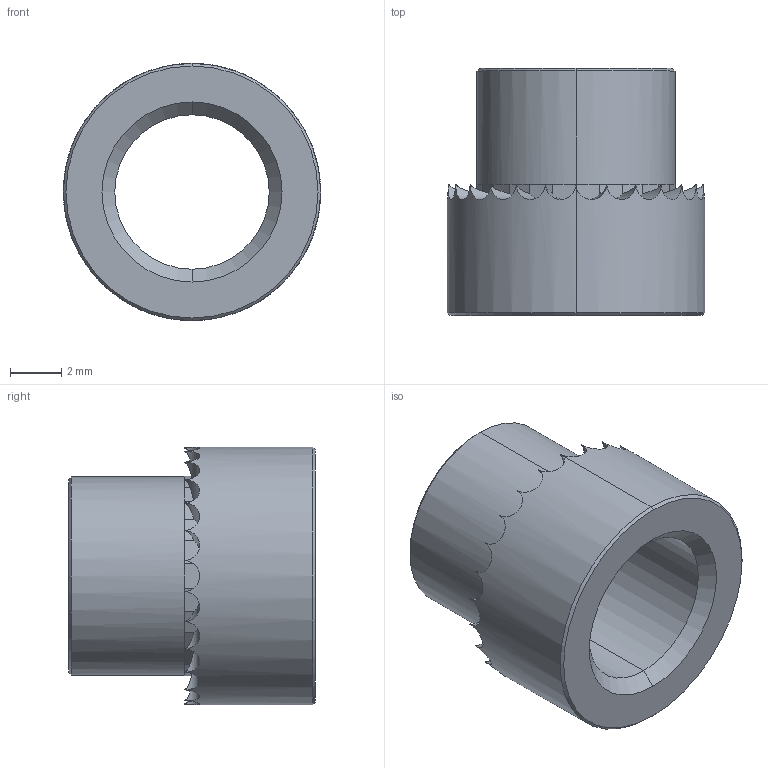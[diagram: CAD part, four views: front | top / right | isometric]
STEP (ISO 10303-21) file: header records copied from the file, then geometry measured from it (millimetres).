
FILE_DESCRIPTION (( 'STEP AP203' ), '1' );
FILE_NAME ('P0829.060-08G-ZP.step', '2019-03-21T22:19:57', ( '' ), ( '' ), 'SwSTEP 2.0', 'SolidWorks 2017', '' );
FILE_SCHEMA (( 'CONFIG_CONTROL_DESIGN' ));
Length unit declared in the file: millimetre
Products named in the file (1): P0829.060-08G-ZP
Bounding box: 10 x 9.6 x 10 mm (x, y, z)
Volume: 317.4 mm3; surface area: 543.6 mm2
Topology: 1 solids, 1 shells, 120 faces, 294 edges, 176 vertices
Faces by surface type: plane 80, cylinder 32, cone 8
Entity records: 3739 total; most frequent: CARTESIAN_POINT 903, ORIENTED_EDGE 588, DIRECTION 582, EDGE_CURVE 294, AXIS2_PLACEMENT_3D 219, VERTEX_POINT 176, VECTOR 144, LINE 144
